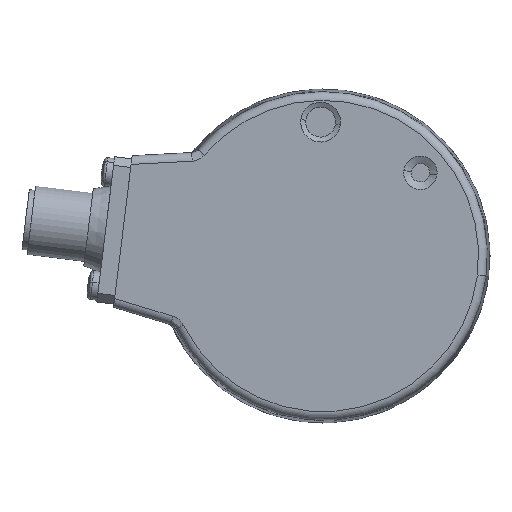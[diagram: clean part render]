
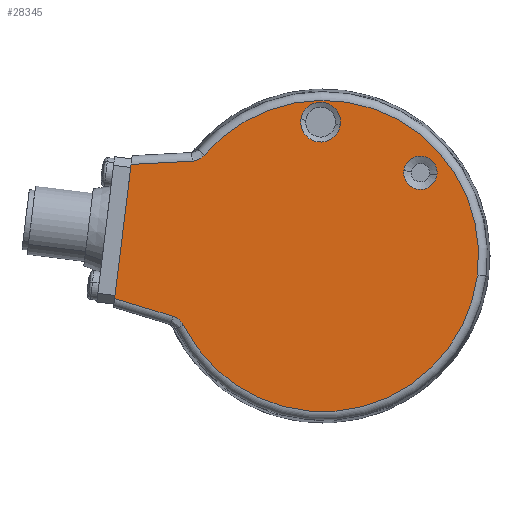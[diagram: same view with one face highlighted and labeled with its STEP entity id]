
A CAD part, left-side view. The second image highlights one B-rep face of the part: STEP entity #28345.
In plain terms, the highlighted planar face has unit normal (-1, 0, 0).
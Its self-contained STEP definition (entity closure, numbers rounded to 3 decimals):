
#65 = DIRECTION ( 'NONE',  ( 1., 0., 0. ) ) ;
#960 = VERTEX_POINT ( 'NONE', #22785 ) ;
#1381 = DIRECTION ( 'NONE',  ( 1., 0., 0. ) ) ;
#1450 = CARTESIAN_POINT ( 'NONE',  ( -30.5, 25.632, -10.617 ) ) ;
#1609 = ORIENTED_EDGE ( 'NONE', *, *, #2338, .T. ) ;
#1828 = AXIS2_PLACEMENT_3D ( 'NONE', #28040, #11516, #30782 ) ;
#1991 = CARTESIAN_POINT ( 'NONE',  ( -30.5, 33.31, 15.905 ) ) ;
#2244 = VECTOR ( 'NONE', #7176, 1000. ) ;
#2338 = EDGE_CURVE ( 'NONE', #2426, #960, #10023, .T. ) ;
#2426 = VERTEX_POINT ( 'NONE', #31067 ) ;
#2440 = EDGE_LOOP ( 'NONE', ( #19676, #16751, #17212, #11012, #30493, #17733, #3416 ) ) ;
#2500 = AXIS2_PLACEMENT_3D ( 'NONE', #19437, #2897, #22173 ) ;
#2820 = CARTESIAN_POINT ( 'NONE',  ( -30.5, 20.579, 17.512 ) ) ;
#2897 = DIRECTION ( 'NONE',  ( 1., 0., 0. ) ) ;
#3416 = ORIENTED_EDGE ( 'NONE', *, *, #12506, .T. ) ;
#3772 = CIRCLE ( 'NONE', #15464, 3.466 ) ;
#4227 = CARTESIAN_POINT ( 'NONE',  ( -30.5, 26.015, -10.478 ) ) ;
#4397 = EDGE_CURVE ( 'NONE', #14242, #14478, #17973, .T. ) ;
#4610 = FACE_BOUND ( 'NONE', #28994, .T. ) ;
#5531 = EDGE_CURVE ( 'NONE', #14242, #31949, #13744, .T. ) ;
#5812 = DIRECTION ( 'NONE',  ( 1., 0., 0. ) ) ;
#6212 = LINE ( 'NONE', #11614, #20871 ) ;
#7176 = DIRECTION ( 'NONE',  ( 0., -0.956, -0.292 ) ) ;
#7603 = VECTOR ( 'NONE', #24480, 1000. ) ;
#8258 = AXIS2_PLACEMENT_3D ( 'NONE', #17903, #1381, #20668 ) ;
#8705 = CARTESIAN_POINT ( 'NONE',  ( -30.5, 21.906, 16.606 ) ) ;
#9482 = DIRECTION ( 'NONE',  ( -1., 0., 0. ) ) ;
#9525 = LINE ( 'NONE', #12627, #2244 ) ;
#9611 = CARTESIAN_POINT ( 'NONE',  ( -30.5, 24.296, -11.83 ) ) ;
#9756 = VERTEX_POINT ( 'NONE', #23307 ) ;
#10023 = CIRCLE ( 'NONE', #2500, 2.899 ) ;
#10174 = AXIS2_PLACEMENT_3D ( 'NONE', #13045, #32304, #15821 ) ;
#10370 = VERTEX_POINT ( 'NONE', #1991 ) ;
#11012 = ORIENTED_EDGE ( 'NONE', *, *, #31586, .T. ) ;
#11103 = ORIENTED_EDGE ( 'NONE', *, *, #20125, .T. ) ;
#11137 = CARTESIAN_POINT ( 'NONE',  ( -30.5, 3.846, 23.669 ) ) ;
#11341 = ORIENTED_EDGE ( 'NONE', *, *, #33369, .T. ) ;
#11495 = CARTESIAN_POINT ( 'NONE',  ( -30.5, 21.352, 16.857 ) ) ;
#11516 = DIRECTION ( 'NONE',  ( 1., 0., 0. ) ) ;
#11614 = CARTESIAN_POINT ( 'NONE',  ( -30.5, 33.046, 15.919 ) ) ;
#11731 = DIRECTION ( 'NONE',  ( 0., 0.999, -0.052 ) ) ;
#11925 = FACE_OUTER_BOUND ( 'NONE', #2440, .T. ) ;
#12399 = CARTESIAN_POINT ( 'NONE',  ( -30.5, 24.205, -12.014 ) ) ;
#12506 = EDGE_CURVE ( 'NONE', #14478, #24664, #26083, .T. ) ;
#12627 = CARTESIAN_POINT ( 'NONE',  ( -30.5, 25.362, -10.678 ) ) ;
#13045 = CARTESIAN_POINT ( 'NONE',  ( -30.5, 0., 0. ) ) ;
#13744 = B_SPLINE_CURVE_WITH_KNOTS ( 'NONE', 3,
 ( #12399, #9611, #26173, #31658, #15201, #34400, #17979, #1450, #20732, #4227 ),
 .UNSPECIFIED., .F., .F.,
 ( 4, 2, 2, 2, 4 ),
 ( 0., 0.001, 0.001, 0.002, 0.002 ),
 .UNSPECIFIED. ) ;
#14242 = VERTEX_POINT ( 'NONE', #27029 ) ;
#14277 = B_SPLINE_CURVE_WITH_KNOTS ( 'NONE', 3,
 ( #22354, #22486, #25265, #8705, #28020, #11495, #30767, #14303, #33527, #17049 ),
 .UNSPECIFIED., .F., .F.,
 ( 4, 2, 2, 2, 4 ),
 ( 0., 0.001, 0.001, 0.002, 0.002 ),
 .UNSPECIFIED. ) ;
#14303 = CARTESIAN_POINT ( 'NONE',  ( -30.5, 20.859, 17.216 ) ) ;
#14478 = VERTEX_POINT ( 'NONE', #28554 ) ;
#15201 = CARTESIAN_POINT ( 'NONE',  ( -30.5, 24.797, -11.19 ) ) ;
#15464 = AXIS2_PLACEMENT_3D ( 'NONE', #22347, #5812, #25141 ) ;
#15821 = DIRECTION ( 'NONE',  ( 0., -0.993, -0.122 ) ) ;
#16085 = EDGE_CURVE ( 'NONE', #31787, #21184, #3772, .T. ) ;
#16581 = CARTESIAN_POINT ( 'NONE',  ( -30.5, 0.406, 23.246 ) ) ;
#16751 = ORIENTED_EDGE ( 'NONE', *, *, #26630, .T. ) ;
#17049 = CARTESIAN_POINT ( 'NONE',  ( -30.5, 20.579, 17.512 ) ) ;
#17212 = ORIENTED_EDGE ( 'NONE', *, *, #28193, .F. ) ;
#17733 = ORIENTED_EDGE ( 'NONE', *, *, #4397, .T. ) ;
#17795 = CARTESIAN_POINT ( 'NONE',  ( -30.5, 36.168, -7.374 ) ) ;
#17903 = CARTESIAN_POINT ( 'NONE',  ( -30.5, -16.919, 14.45 ) ) ;
#17973 = CIRCLE ( 'NONE', #25734, 27.022 ) ;
#17979 = CARTESIAN_POINT ( 'NONE',  ( -30.5, 25.277, -10.811 ) ) ;
#19385 = DIRECTION ( 'NONE',  ( 0., -0.993, -0.122 ) ) ;
#19437 = CARTESIAN_POINT ( 'NONE',  ( -30.5, -16.919, 14.45 ) ) ;
#19627 = PLANE ( 'NONE',  #1828 ) ;
#19676 = ORIENTED_EDGE ( 'NONE', *, *, #33256, .F. ) ;
#20125 = EDGE_CURVE ( 'NONE', #21184, #31787, #31596, .T. ) ;
#20668 = DIRECTION ( 'NONE',  ( 0., -0.993, -0.122 ) ) ;
#20732 = CARTESIAN_POINT ( 'NONE',  ( -30.5, 25.819, -10.538 ) ) ;
#20871 = VECTOR ( 'NONE', #11731, 1000. ) ;
#21035 = AXIS2_PLACEMENT_3D ( 'NONE', #16581, #65, #19385 ) ;
#21184 = VERTEX_POINT ( 'NONE', #27617 ) ;
#21726 = ORIENTED_EDGE ( 'NONE', *, *, #16085, .T. ) ;
#22173 = DIRECTION ( 'NONE',  ( 0., -0.993, -0.122 ) ) ;
#22301 = LINE ( 'NONE', #32614, #7603 ) ;
#22347 = CARTESIAN_POINT ( 'NONE',  ( -30.5, 0.406, 23.246 ) ) ;
#22354 = CARTESIAN_POINT ( 'NONE',  ( -30.5, 22.708, 16.461 ) ) ;
#22486 = CARTESIAN_POINT ( 'NONE',  ( -30.5, 22.503, 16.471 ) ) ;
#22785 = CARTESIAN_POINT ( 'NONE',  ( -30.5, -14.042, 14.804 ) ) ;
#23307 = CARTESIAN_POINT ( 'NONE',  ( -30.5, 22.708, 16.461 ) ) ;
#24480 = DIRECTION ( 'NONE',  ( 0., -0.122, 0.993 ) ) ;
#24664 = VERTEX_POINT ( 'NONE', #2820 ) ;
#25141 = DIRECTION ( 'NONE',  ( 0., -0.993, -0.122 ) ) ;
#25265 = CARTESIAN_POINT ( 'NONE',  ( -30.5, 22.299, 16.503 ) ) ;
#25734 = AXIS2_PLACEMENT_3D ( 'NONE', #26044, #9482, #28778 ) ;
#26044 = CARTESIAN_POINT ( 'NONE',  ( -30.5, 0., 0. ) ) ;
#26083 = CIRCLE ( 'NONE', #10174, 27.022 ) ;
#26173 = CARTESIAN_POINT ( 'NONE',  ( -30.5, 24.406, -11.656 ) ) ;
#26232 = EDGE_LOOP ( 'NONE', ( #11341, #1609 ) ) ;
#26616 = FACE_BOUND ( 'NONE', #26232, .T. ) ;
#26630 = EDGE_CURVE ( 'NONE', #9756, #10370, #6212, .T. ) ;
#27029 = CARTESIAN_POINT ( 'NONE',  ( -30.5, 24.205, -12.014 ) ) ;
#27617 = CARTESIAN_POINT ( 'NONE',  ( -30.5, -3.034, 22.824 ) ) ;
#27858 = CIRCLE ( 'NONE', #8258, 2.899 ) ;
#28020 = CARTESIAN_POINT ( 'NONE',  ( -30.5, 21.716, 16.677 ) ) ;
#28040 = CARTESIAN_POINT ( 'NONE',  ( -30.5, 0., 0. ) ) ;
#28193 = EDGE_CURVE ( 'NONE', #32039, #10370, #22301, .T. ) ;
#28345 = ADVANCED_FACE ( 'NONE', ( #4610, #26616, #11925 ), #19627, .F. ) ;
#28554 = CARTESIAN_POINT ( 'NONE',  ( -30.5, -26.821, -3.293 ) ) ;
#28778 = DIRECTION ( 'NONE',  ( 0., -0.993, -0.122 ) ) ;
#28994 = EDGE_LOOP ( 'NONE', ( #21726, #11103 ) ) ;
#30493 = ORIENTED_EDGE ( 'NONE', *, *, #5531, .F. ) ;
#30767 = CARTESIAN_POINT ( 'NONE',  ( -30.5, 21.178, 16.967 ) ) ;
#30782 = DIRECTION ( 'NONE',  ( 0., -0.993, -0.122 ) ) ;
#31067 = CARTESIAN_POINT ( 'NONE',  ( -30.5, -19.796, 14.097 ) ) ;
#31586 = EDGE_CURVE ( 'NONE', #32039, #31949, #9525, .T. ) ;
#31596 = CIRCLE ( 'NONE', #21035, 3.466 ) ;
#31658 = CARTESIAN_POINT ( 'NONE',  ( -30.5, 24.657, -11.336 ) ) ;
#31787 = VERTEX_POINT ( 'NONE', #11137 ) ;
#31949 = VERTEX_POINT ( 'NONE', #33770 ) ;
#32039 = VERTEX_POINT ( 'NONE', #17795 ) ;
#32304 = DIRECTION ( 'NONE',  ( -1., 0., 0. ) ) ;
#32614 = CARTESIAN_POINT ( 'NONE',  ( -30.5, 36.354, -8.886 ) ) ;
#33256 = EDGE_CURVE ( 'NONE', #9756, #24664, #14277, .T. ) ;
#33369 = EDGE_CURVE ( 'NONE', #960, #2426, #27858, .T. ) ;
#33527 = CARTESIAN_POINT ( 'NONE',  ( -30.5, 20.712, 17.356 ) ) ;
#33770 = CARTESIAN_POINT ( 'NONE',  ( -30.5, 26.015, -10.478 ) ) ;
#34400 = CARTESIAN_POINT ( 'NONE',  ( -30.5, 25.107, -10.927 ) ) ;
